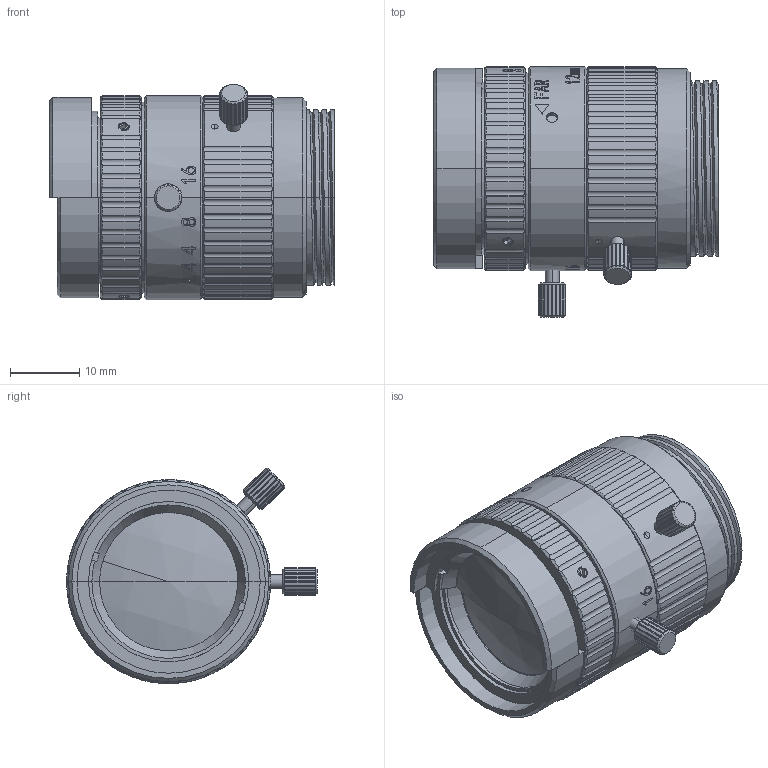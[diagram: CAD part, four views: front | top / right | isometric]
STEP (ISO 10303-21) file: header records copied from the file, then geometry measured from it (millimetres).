
FILE_DESCRIPTION (( 'STEP AP214' ), '1' );
FILE_NAME ('×°ÅäÌå22.STEP', '2020-02-21T00:56:52', ( '' ), ( '' ), 'SwSTEP 2.0', 'SolidWorks 2019', '' );
FILE_SCHEMA (( 'AUTOMOTIVE_DESIGN' ));
Length unit declared in the file: inch
Products named in the file (13): 嫖擊隊; 坶踡隊; 隊赽; 錨璃1^蚾饜极1; 錨璃2^蚾饜极1; 踡隅蹟隊; 12mm 蚾饜极 扥堤1.33mm; 12mm 蚾饜极; 蚾饜极22
Assembly tree (12 placements, depth 3):
  嫖擊隊
  坶踡隊
  隊赽
  蚾饜极22
    12mm 蚾饜极 扥堤1.33mm
      隊赽
      隊赽
    12mm 蚾饜极
      隊赽
      隊赽
    錨璃1^蚾饜极1
    錨璃2^蚾饜极1
    坶踡隊
    踡隅蹟隊  x3
Bounding box: 41.23 x 36.26 x 31.13 mm (x, y, z)
Volume: 24034.2 mm3; surface area: 8699.5 mm2
Topology: 10 solids, 10 shells, 951 faces, 2620 edges, 1728 vertices
Faces by surface type: plane 403, cylinder 339, bspline 112, cone 91, sphere 6
Entity records: 43395 total; most frequent: CARTESIAN_POINT 21073, ORIENTED_EDGE 5048, DIRECTION 3883, EDGE_CURVE 2524, VERTEX_POINT 1672, AXIS2_PLACEMENT_3D 1447, VECTOR 989, LINE 989
